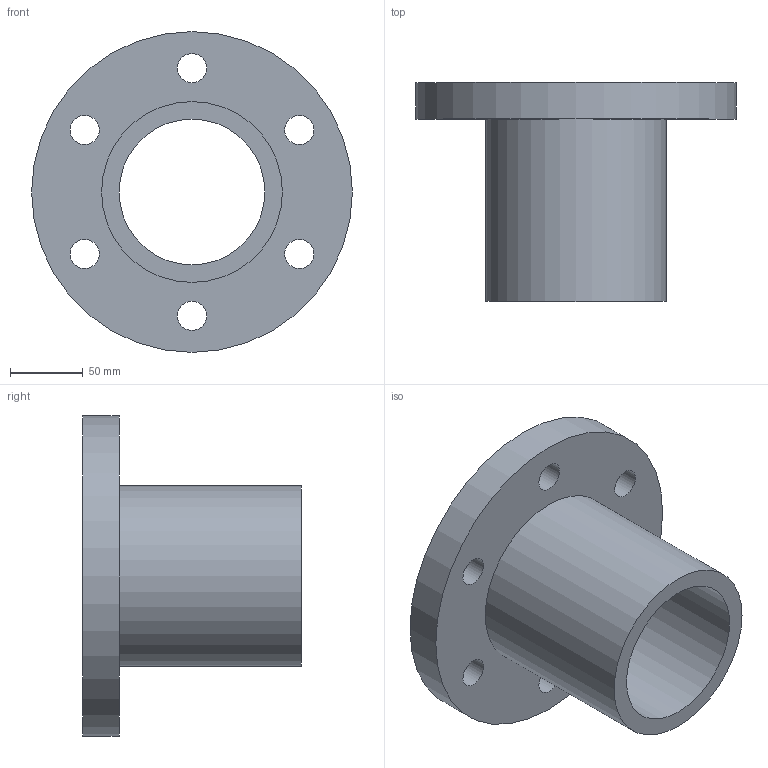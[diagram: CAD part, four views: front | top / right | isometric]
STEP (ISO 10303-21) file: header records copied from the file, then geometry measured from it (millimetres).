
FILE_DESCRIPTION(/* description */ (''),/* implementation_level */ '2;1');
FILE_NAME(/* name */ 'Flange',/* time_stamp */ '2005-04-08T13:04:48+06:00',/* author */ (''),/* organization */ (''),/* preprocessor_version */ 'ST-DEVELOPER v9',/* originating_system */ 'UGS - NX 3.0',/* authorisation */ '');
FILE_SCHEMA (('CONFIG_CONTROL_DESIGN'));
Length unit declared in the file: millimetre
Products named in the file (1): CADCF329m9my
Bounding box: 220 x 150 x 220 mm (x, y, z)
Volume: 1234645.9 mm3; surface area: 179070.8 mm2
Topology: 1 solids, 1 shells, 12 faces, 32 edges, 23 vertices
Faces by surface type: cylinder 9, plane 3
Full cylindrical faces by diameter (mm): 20 x6, 100 x1, 124 x1, 220 x1
Entity records: 418 total; most frequent: DIRECTION 62, CARTESIAN_POINT 49, EDGE_LOOP 36, ORIENTED_EDGE 36, FACE_BOUND 33, AXIS2_PLACEMENT_3D 31, VERTEX_POINT 18, EDGE_CURVE 18
